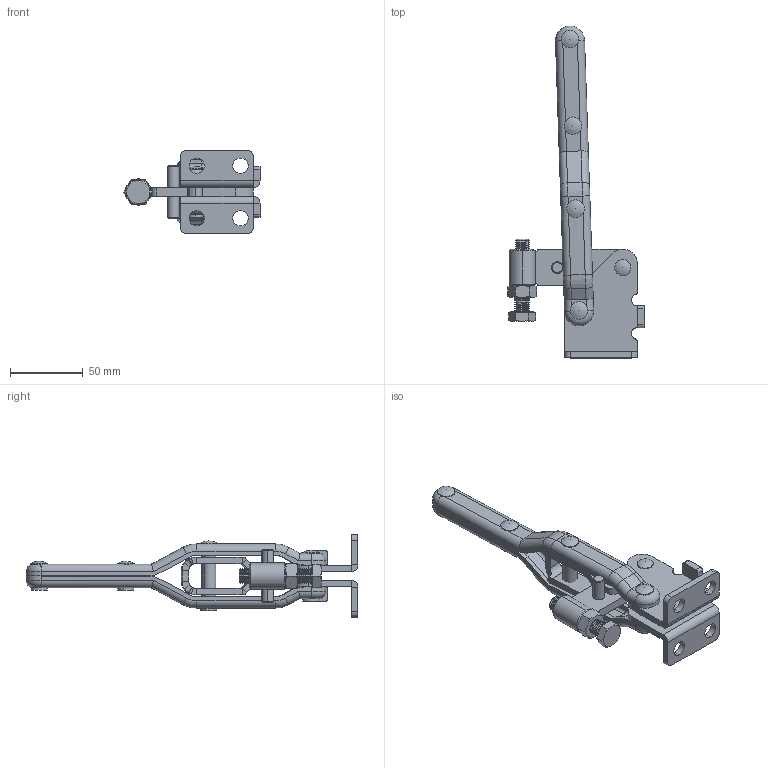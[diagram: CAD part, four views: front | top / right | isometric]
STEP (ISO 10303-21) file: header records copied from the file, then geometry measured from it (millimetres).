
FILE_DESCRIPTION (( 'STEP AP214' ), '1' );
FILE_NAME ('ISK-44B0.STEP', '2015-07-31T07:57:35', ( '' ), ( '' ), 'SwSTEP 2.0', 'SolidWorks 2015', '' );
FILE_SCHEMA (( 'AUTOMOTIVE_DESIGN' ));
Length unit declared in the file: millimetre
Products named in the file (13): Rivet_Φ10×16; Rivet_Φ8×15; Rivet_Φ10×44; hexagon nut_2_jis_JIS B 1181 Hexagon nut - Class 2 Finished M10 --N; continuous thread hexagon head bolt_a_jis_JIS B 1180 Continuous thread hexagon head bolt A M10 x 50 --S; Stopper; Retainer; Link; Handle; Arm; Base; ISK-44B0; Rivet_Φ10×31
Assembly tree (14 placements, depth 2):
  ISK-44B0
    Base
    Arm
    Handle
    Link
    Retainer
    Stopper
    continuous thread hexagon head bolt_a_jis_JIS B 1180 Continuous thread hexagon head bolt A M10 x 50 --S
    hexagon nut_2_jis_JIS B 1181 Hexagon nut - Class 2 Finished M10 --N
    Rivet_Φ10×44
    Rivet_Φ8×15  x2
    Rivet_Φ10×16  x2
    Rivet_Φ10×31
Bounding box: 93.44 x 227.89 x 57 mm (x, y, z)
Volume: 110838 mm3; surface area: 68516.1 mm2
Topology: 16 solids, 16 shells, 682 faces, 1671 edges, 1012 vertices
Faces by surface type: cylinder 280, plane 194, cone 168, torus 26, bspline 8, sphere 6
Entity records: 20784 total; most frequent: CARTESIAN_POINT 4193, DIRECTION 3639, ORIENTED_EDGE 3234, EDGE_CURVE 1617, AXIS2_PLACEMENT_3D 1447, VERTEX_POINT 976, CIRCLE 776, LINE 745
